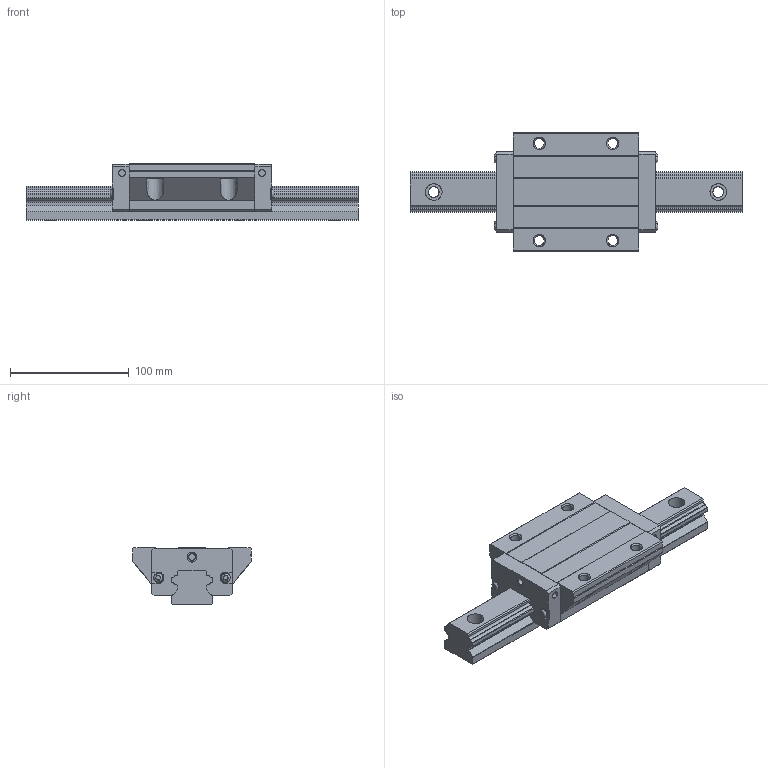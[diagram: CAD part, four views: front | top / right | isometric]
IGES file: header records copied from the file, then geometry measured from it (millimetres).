
Start section: START RECORD GO HERE.
Global section: file name: SBG35_FLL.igs; native system: IBM CATIA IGES - CATIA Version 5 Release 16 ; preprocessor: CATIA Version 5 Release 16 ; author: mycom; organization: RD03; date: 20070228.142143; units: millimetre
Bounding box: 280 x 100 x 48 mm (x, y, z)
Surface area: 99187.4 mm2 (no closed solid volume)
Topology: 0 solids, 0 shells, 288 faces, 1558 edges, 1552 vertices
Faces by surface type: revolution 153, plane 135
